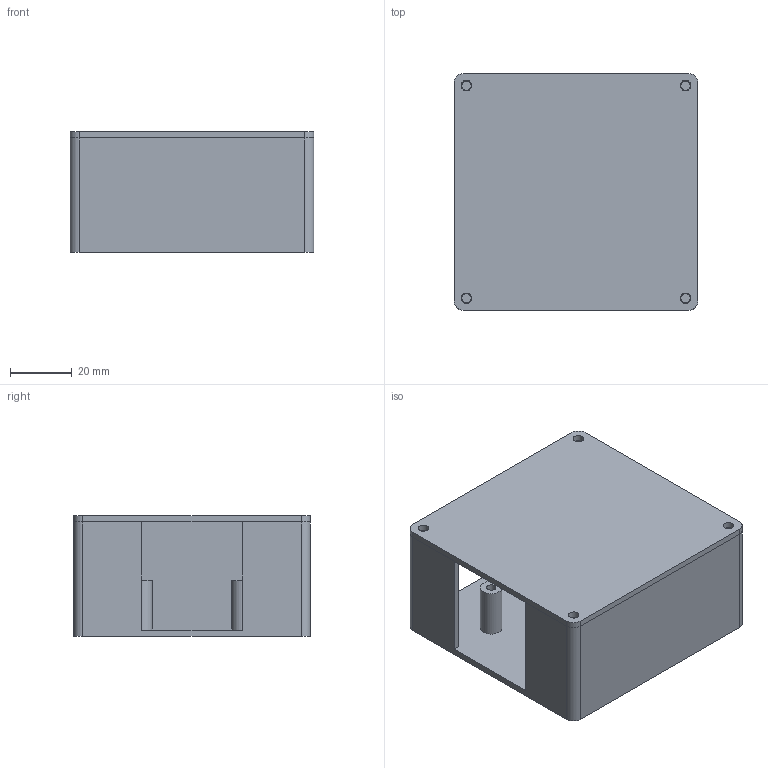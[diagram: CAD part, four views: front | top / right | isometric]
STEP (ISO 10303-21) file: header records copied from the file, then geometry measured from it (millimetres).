
FILE_DESCRIPTION(/* description */ (''),/* implementation_level */ '2;1');
FILE_NAME(/* name */ 'ElectronicsCase v2.step',/* time_stamp */ '2023-08-25T16:45:03+03:00',/* author */ (''),/* organization */ (''),/* preprocessor_version */ 'ST-DEVELOPER v20',/* originating_system */ 'Autodesk Translation Framework v12.9.0.99',/* authorisation */ '');
FILE_SCHEMA (('AUTOMOTIVE_DESIGN { 1 0 10303 214 3 1 1 }'));
Length unit declared in the file: millimetre
Products named in the file (1): ElectronicsCase
Bounding box: 79 x 76.7 x 39 mm (x, y, z)
Volume: 44127.8 mm3; surface area: 44672.9 mm2
Topology: 2 solids, 2 shells, 68 faces, 156 edges, 104 vertices
Faces by surface type: plane 44, cylinder 24
Full cylindrical faces by diameter (mm): 3 x8, 3.4 x4, 7 x4
Entity records: 1976 total; most frequent: DIRECTION 342, CARTESIAN_POINT 329, ORIENTED_EDGE 312, EDGE_CURVE 156, AXIS2_PLACEMENT_3D 117, LINE 108, VECTOR 108, VERTEX_POINT 104
